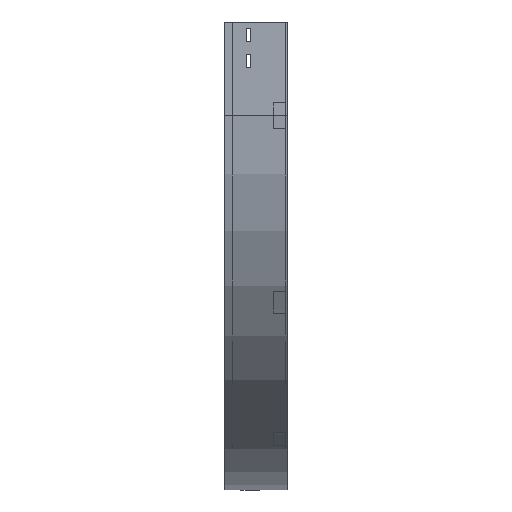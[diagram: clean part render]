
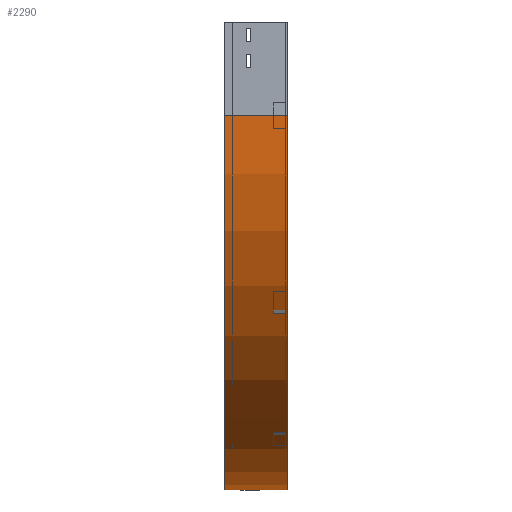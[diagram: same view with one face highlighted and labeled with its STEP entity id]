
A CAD part, left-side view. The second image highlights one B-rep face of the part: STEP entity #2290.
In plain terms, the highlighted cylindrical face has radius 600 mm (diameter 1200 mm), a partial arc.
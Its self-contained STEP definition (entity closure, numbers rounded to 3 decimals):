
#202 = CARTESIAN_POINT ( 'NONE',  ( 0., 0., -150. ) ) ;
#228 = CARTESIAN_POINT ( 'NONE',  ( 600., 0., -150. ) ) ;
#317 = AXIS2_PLACEMENT_3D ( 'NONE', #2484, #1969, #1278 ) ;
#419 = EDGE_CURVE ( 'NONE', #1395, #3403, #2103, .T. ) ;
#426 = CARTESIAN_POINT ( 'NONE',  ( 0., 100., -150. ) ) ;
#525 = CARTESIAN_POINT ( 'NONE',  ( 600., 0., -150. ) ) ;
#636 = VECTOR ( 'NONE', #799, 1000. ) ;
#690 = VECTOR ( 'NONE', #1383, 1000. ) ;
#799 = DIRECTION ( 'NONE',  ( 0., -1., 0. ) ) ;
#830 = DIRECTION ( 'NONE',  ( -1., 0., 0. ) ) ;
#855 = DIRECTION ( 'NONE',  ( 0., -1., 0. ) ) ;
#943 = VERTEX_POINT ( 'NONE', #2800 ) ;
#1120 = CIRCLE ( 'NONE', #317, 600. ) ;
#1143 = ORIENTED_EDGE ( 'NONE', *, *, #3003, .T. ) ;
#1266 = ORIENTED_EDGE ( 'NONE', *, *, #1899, .T. ) ;
#1278 = DIRECTION ( 'NONE',  ( -1., 0., 0. ) ) ;
#1333 = VERTEX_POINT ( 'NONE', #426 ) ;
#1350 = EDGE_LOOP ( 'NONE', ( #3335, #2387, #1143, #1266 ) ) ;
#1383 = DIRECTION ( 'NONE',  ( 0., -1., 0. ) ) ;
#1395 = VERTEX_POINT ( 'NONE', #2579 ) ;
#1599 = CARTESIAN_POINT ( 'NONE',  ( 600., 0., -750. ) ) ;
#1718 = DIRECTION ( 'NONE',  ( 0., 0., -1. ) ) ;
#1753 = CYLINDRICAL_SURFACE ( 'NONE', #3496, 600. ) ;
#1899 = EDGE_CURVE ( 'NONE', #943, #3403, #2009, .T. ) ;
#1969 = DIRECTION ( 'NONE',  ( 0., -1., 0. ) ) ;
#2009 = LINE ( 'NONE', #3717, #636 ) ;
#2103 = CIRCLE ( 'NONE', #3600, 600. ) ;
#2290 = ADVANCED_FACE ( 'NONE', ( #3480 ), #1753, .T. ) ;
#2310 = DIRECTION ( 'NONE',  ( 0., -1., 0. ) ) ;
#2387 = ORIENTED_EDGE ( 'NONE', *, *, #3213, .F. ) ;
#2484 = CARTESIAN_POINT ( 'NONE',  ( 600., 100., -150. ) ) ;
#2579 = CARTESIAN_POINT ( 'NONE',  ( 0., 0., -150. ) ) ;
#2800 = CARTESIAN_POINT ( 'NONE',  ( 600., 100., -750. ) ) ;
#2857 = LINE ( 'NONE', #202, #690 ) ;
#3003 = EDGE_CURVE ( 'NONE', #1333, #943, #1120, .T. ) ;
#3213 = EDGE_CURVE ( 'NONE', #1333, #1395, #2857, .T. ) ;
#3335 = ORIENTED_EDGE ( 'NONE', *, *, #419, .F. ) ;
#3403 = VERTEX_POINT ( 'NONE', #1599 ) ;
#3480 = FACE_OUTER_BOUND ( 'NONE', #1350, .T. ) ;
#3496 = AXIS2_PLACEMENT_3D ( 'NONE', #525, #855, #1718 ) ;
#3600 = AXIS2_PLACEMENT_3D ( 'NONE', #228, #2310, #830 ) ;
#3717 = CARTESIAN_POINT ( 'NONE',  ( 600., 0., -750. ) ) ;
